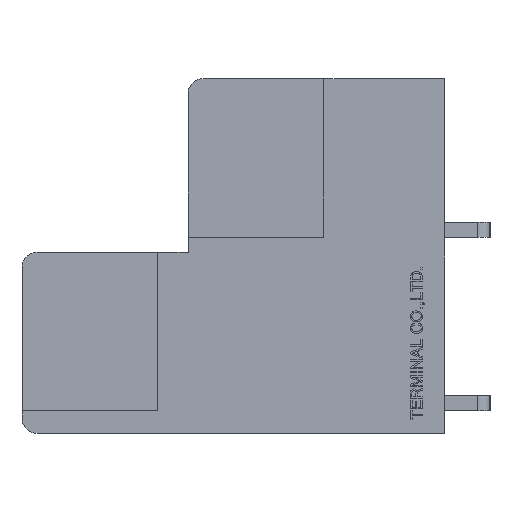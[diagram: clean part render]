
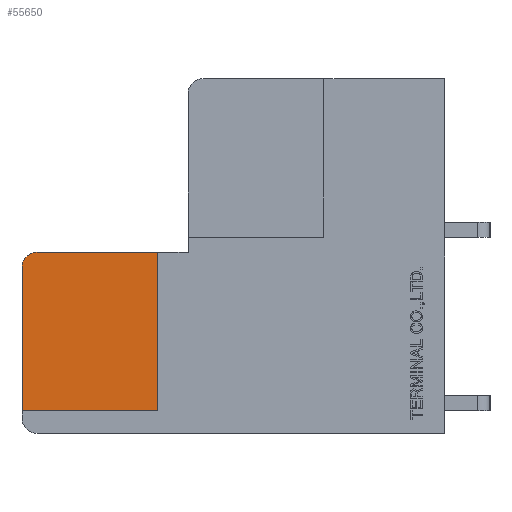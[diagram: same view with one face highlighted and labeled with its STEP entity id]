
A CAD part, left-side view. The second image highlights one B-rep face of the part: STEP entity #55650.
In plain terms, the highlighted planar face has unit normal (-1, 0, 0).
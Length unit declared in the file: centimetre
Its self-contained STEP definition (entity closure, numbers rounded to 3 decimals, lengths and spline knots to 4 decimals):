
#2356=CIRCLE('',#95272,0.1);
#3102=VERTEX_POINT('',#73056);
#3103=VERTEX_POINT('',#73058);
#3104=VERTEX_POINT('',#73062);
#3105=VERTEX_POINT('',#73063);
#3106=VERTEX_POINT('',#73066);
#8876=VECTOR('',#61902,1.);
#8877=VECTOR('',#61903,1.);
#8878=VECTOR('',#61904,1.);
#8879=VECTOR('',#61905,1.);
#15467=LINE('',#73061,#8876);
#15468=LINE('',#73064,#8877);
#15469=LINE('',#73065,#8878);
#15470=LINE('',#73067,#8879);
#22155=EDGE_CURVE('',#3102,#3103,#2356,.T.);
#22157=EDGE_CURVE('',#3104,#3105,#15467,.T.);
#22158=EDGE_CURVE('',#3103,#3104,#15468,.T.);
#22159=EDGE_CURVE('',#3106,#3102,#15469,.T.);
#22160=EDGE_CURVE('',#3105,#3106,#15470,.T.);
#31119=ORIENTED_EDGE('',*,*,#22157,.F.);
#31120=ORIENTED_EDGE('',*,*,#22158,.F.);
#31121=ORIENTED_EDGE('',*,*,#22155,.F.);
#31122=ORIENTED_EDGE('',*,*,#22159,.F.);
#31123=ORIENTED_EDGE('',*,*,#22160,.F.);
#48362=EDGE_LOOP('',(#31119,#31120,#31121,#31122,#31123));
#52015=FACE_BOUND('',#48362,.T.);
#55650=ADVANCED_FACE('',(#52015),#58998,.F.);
#58998=PLANE('',#95273);
#61898=DIRECTION('',(1.,0.,0.));
#61899=DIRECTION('',(0.,0.,-0.1));
#61901=DIRECTION('',(1.,0.,0.));
#61902=DIRECTION('',(0.,0.,-1.));
#61903=DIRECTION('',(0.,-1.,0.));
#61904=DIRECTION('',(0.,0.,1.));
#61905=DIRECTION('',(0.,1.,0.));
#73056=CARTESIAN_POINT('',(-1.1,2.8,1.1));
#73057=CARTESIAN_POINT('',(-1.1,2.7,1.1));
#73058=CARTESIAN_POINT('',(-1.1,2.7,1.2));
#73060=CARTESIAN_POINT('',(-1.1,1.3846,0.6));
#73061=CARTESIAN_POINT('',(-1.1,1.9,0.15));
#73062=CARTESIAN_POINT('',(-1.1,1.9,1.2));
#73063=CARTESIAN_POINT('',(-1.1,1.9,0.15));
#73064=CARTESIAN_POINT('',(-1.1,2.7,1.2));
#73065=CARTESIAN_POINT('',(-1.1,2.8,0.1));
#73066=CARTESIAN_POINT('',(-1.1,2.8,0.15));
#73067=CARTESIAN_POINT('',(-1.1,2.8,0.15));
#95272=AXIS2_PLACEMENT_3D('',#73057,#61898,#61899);
#95273=AXIS2_PLACEMENT_3D('',#73060,#61901,$);
